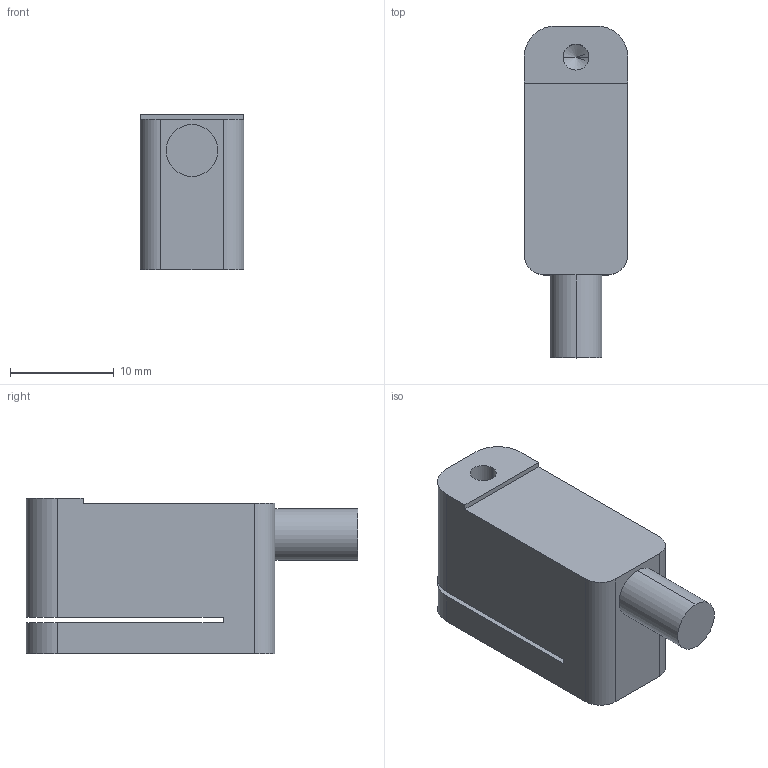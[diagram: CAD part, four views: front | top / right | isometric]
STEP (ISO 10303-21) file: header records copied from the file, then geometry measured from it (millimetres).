
FILE_DESCRIPTION (( 'STEP AP203' ), '1' );
FILE_NAME ('XD007-D1三维外形图-21.07.16.STEP', '2021-07-16T07:36:57', ( '' ), ( '' ), 'SwSTEP 2.0', 'SolidWorks 2016', '' );
FILE_SCHEMA (( 'CONFIG_CONTROL_DESIGN' ));
Length unit declared in the file: millimetre
Products named in the file (1): XD007-D1三维外形图-21.07.16
Bounding box: 10 x 32 x 15 mm (x, y, z)
Volume: 3409.7 mm3; surface area: 2025.2 mm2
Topology: 1 solids, 1 shells, 33 faces, 84 edges, 51 vertices
Faces by surface type: cylinder 14, plane 13, cone 6
Entity records: 1033 total; most frequent: DIRECTION 174, CARTESIAN_POINT 163, ORIENTED_EDGE 156, EDGE_CURVE 78, AXIS2_PLACEMENT_3D 62, VERTEX_POINT 51, VECTOR 50, LINE 50
